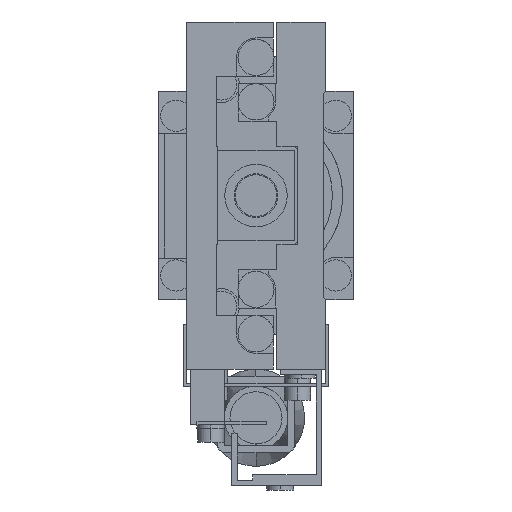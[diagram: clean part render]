
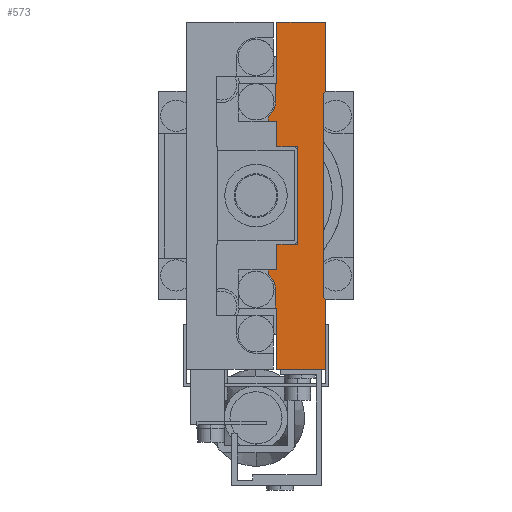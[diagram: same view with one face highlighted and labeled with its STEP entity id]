
A CAD part, left-side view. The second image highlights one B-rep face of the part: STEP entity #573.
In plain terms, the highlighted planar face has unit normal (-1, 0, 0).
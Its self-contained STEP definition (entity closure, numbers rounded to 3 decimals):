
#573=ADVANCED_FACE('',(#1634),#1635,.F.);
#1634=FACE_OUTER_BOUND('',#3292,.T.);
#1635=PLANE('',#3293);
#3292=EDGE_LOOP('',(#6457,#6458,#6459,#6460,#6461,#6462,#6463,#6464,#6465,#6466,#6467,#6468,#6469,#6470,#6471,#6472,#6473,#6474,#6475,#6476,#6477,#6478,#6479,#6480));
#3293=AXIS2_PLACEMENT_3D('',#6481,#6482,#6483);
#6457=ORIENTED_EDGE('',*,*,#11306,.T.);
#6458=ORIENTED_EDGE('',*,*,#11307,.T.);
#6459=ORIENTED_EDGE('',*,*,#11308,.T.);
#6460=ORIENTED_EDGE('',*,*,#11309,.F.);
#6461=ORIENTED_EDGE('',*,*,#11310,.F.);
#6462=ORIENTED_EDGE('',*,*,#11311,.F.);
#6463=ORIENTED_EDGE('',*,*,#11312,.F.);
#6464=ORIENTED_EDGE('',*,*,#11313,.F.);
#6465=ORIENTED_EDGE('',*,*,#11314,.F.);
#6466=ORIENTED_EDGE('',*,*,#11315,.F.);
#6467=ORIENTED_EDGE('',*,*,#11316,.F.);
#6468=ORIENTED_EDGE('',*,*,#11317,.F.);
#6469=ORIENTED_EDGE('',*,*,#11318,.F.);
#6470=ORIENTED_EDGE('',*,*,#11319,.F.);
#6471=ORIENTED_EDGE('',*,*,#11320,.T.);
#6472=ORIENTED_EDGE('',*,*,#11321,.T.);
#6473=ORIENTED_EDGE('',*,*,#11322,.T.);
#6474=ORIENTED_EDGE('',*,*,#11323,.F.);
#6475=ORIENTED_EDGE('',*,*,#11324,.F.);
#6476=ORIENTED_EDGE('',*,*,#11325,.F.);
#6477=ORIENTED_EDGE('',*,*,#11300,.F.);
#6478=ORIENTED_EDGE('',*,*,#11326,.F.);
#6479=ORIENTED_EDGE('',*,*,#11327,.F.);
#6480=ORIENTED_EDGE('',*,*,#11328,.F.);
#6481=CARTESIAN_POINT('',(-25.0,0.,0.0));
#6482=DIRECTION('',(1.0,0.0,0.0));
#6483=DIRECTION('',(0.0,1.0,0.0));
#11300=EDGE_CURVE('',#13697,#13698,#13699,.T.);
#11306=EDGE_CURVE('',#13708,#13709,#13710,.T.);
#11307=EDGE_CURVE('',#13709,#13711,#13712,.T.);
#11308=EDGE_CURVE('',#13711,#13713,#13714,.T.);
#11309=EDGE_CURVE('',#13715,#13713,#13716,.T.);
#11310=EDGE_CURVE('',#13717,#13715,#13718,.T.);
#11311=EDGE_CURVE('',#13719,#13717,#13720,.T.);
#11312=EDGE_CURVE('',#13721,#13719,#13722,.T.);
#11313=EDGE_CURVE('',#13723,#13721,#13724,.T.);
#11314=EDGE_CURVE('',#13725,#13723,#13726,.T.);
#11315=EDGE_CURVE('',#13727,#13725,#13728,.T.);
#11316=EDGE_CURVE('',#13729,#13727,#13730,.T.);
#11317=EDGE_CURVE('',#13731,#13729,#13732,.T.);
#11318=EDGE_CURVE('',#13733,#13731,#13734,.T.);
#11319=EDGE_CURVE('',#13735,#13733,#13736,.T.);
#11320=EDGE_CURVE('',#13735,#13737,#13738,.T.);
#11321=EDGE_CURVE('',#13737,#13739,#13740,.T.);
#11322=EDGE_CURVE('',#13739,#13741,#13742,.T.);
#11323=EDGE_CURVE('',#13743,#13741,#13744,.T.);
#11324=EDGE_CURVE('',#13745,#13743,#13746,.T.);
#11325=EDGE_CURVE('',#13698,#13745,#13747,.T.);
#11326=EDGE_CURVE('',#13748,#13697,#13749,.T.);
#11327=EDGE_CURVE('',#13750,#13748,#13751,.T.);
#11328=EDGE_CURVE('',#13708,#13750,#13752,.T.);
#13697=VERTEX_POINT('',#17353);
#13698=VERTEX_POINT('',#17354);
#13699=LINE('',#17355,#17356);
#13708=VERTEX_POINT('',#17368);
#13709=VERTEX_POINT('',#17369);
#13710=LINE('',#17370,#17371);
#13711=VERTEX_POINT('',#17372);
#13712=CIRCLE('',#17373,2.8);
#13713=VERTEX_POINT('',#17374);
#13714=LINE('',#17375,#17376);
#13715=VERTEX_POINT('',#17377);
#13716=LINE('',#17378,#17379);
#13717=VERTEX_POINT('',#17380);
#13718=LINE('',#17381,#17382);
#13719=VERTEX_POINT('',#17383);
#13720=LINE('',#17384,#17385);
#13721=VERTEX_POINT('',#17386);
#13722=LINE('',#17387,#17388);
#13723=VERTEX_POINT('',#17389);
#13724=LINE('',#17390,#17391);
#13725=VERTEX_POINT('',#17392);
#13726=LINE('',#17393,#17394);
#13727=VERTEX_POINT('',#17395);
#13728=LINE('',#17396,#17397);
#13729=VERTEX_POINT('',#17398);
#13730=LINE('',#17399,#17400);
#13731=VERTEX_POINT('',#17401);
#13732=LINE('',#17402,#17403);
#13733=VERTEX_POINT('',#17404);
#13734=LINE('',#17405,#17406);
#13735=VERTEX_POINT('',#17407);
#13736=LINE('',#17408,#17409);
#13737=VERTEX_POINT('',#17410);
#13738=LINE('',#17411,#17412);
#13739=VERTEX_POINT('',#17413);
#13740=CIRCLE('',#17414,2.8);
#13741=VERTEX_POINT('',#17415);
#13742=LINE('',#17416,#17417);
#13743=VERTEX_POINT('',#17418);
#13744=LINE('',#17419,#17420);
#13745=VERTEX_POINT('',#17421);
#13746=LINE('',#17422,#17423);
#13747=LINE('',#17424,#17425);
#13748=VERTEX_POINT('',#17426);
#13749=LINE('',#17427,#17428);
#13750=VERTEX_POINT('',#17429);
#13751=LINE('',#17430,#17431);
#13752=LINE('',#17432,#17433);
#17353=CARTESIAN_POINT('',(-25.0,4.0,-7.0));
#17354=CARTESIAN_POINT('',(-25.0,4.0,7.0));
#17355=CARTESIAN_POINT('',(-25.0,4.0,-7.0));
#17356=VECTOR('',#21486,1000.0);
#17368=CARTESIAN_POINT('',(-25.0,8.2,-10.7));
#17369=CARTESIAN_POINT('',(-25.0,8.2,-11.355));
#17370=CARTESIAN_POINT('',(-25.0,8.2,-10.7));
#17371=VECTOR('',#21496,1000.0);
#17372=CARTESIAN_POINT('',(-25.0,7.2,-13.5));
#17373=AXIS2_PLACEMENT_3D('',#21497,#21498,#21499);
#17374=CARTESIAN_POINT('',(-25.0,7.2,-16.2));
#17375=CARTESIAN_POINT('',(-25.0,7.2,-13.5));
#17376=VECTOR('',#21500,1000.0);
#17377=CARTESIAN_POINT('',(-25.0,7.0,-16.2));
#17378=CARTESIAN_POINT('',(-25.0,7.0,-16.2));
#17379=VECTOR('',#21501,1000.0);
#17380=CARTESIAN_POINT('',(-25.0,7.0,-25.0));
#17381=CARTESIAN_POINT('',(-25.0,7.0,-25.0));
#17382=VECTOR('',#21502,1000.0);
#17383=CARTESIAN_POINT('',(-25.0,0.,-25.0));
#17384=CARTESIAN_POINT('',(-25.0,0.,-25.0));
#17385=VECTOR('',#21503,1000.0);
#17386=CARTESIAN_POINT('',(-25.0,0.,-15.0));
#17387=CARTESIAN_POINT('',(-25.0,0.,-15.0));
#17388=VECTOR('',#21504,1000.0);
#17389=CARTESIAN_POINT('',(-25.0,0.35,-14.65));
#17390=CARTESIAN_POINT('',(-25.0,0.35,-14.65));
#17391=VECTOR('',#21505,1000.0);
#17392=CARTESIAN_POINT('',(-25.0,0.35,14.65));
#17393=CARTESIAN_POINT('',(-25.0,0.35,14.65));
#17394=VECTOR('',#21506,1000.0);
#17395=CARTESIAN_POINT('',(-25.0,0.,15.0));
#17396=CARTESIAN_POINT('',(-25.0,0.,15.0));
#17397=VECTOR('',#21507,1000.0);
#17398=CARTESIAN_POINT('',(-25.0,0.,25.0));
#17399=CARTESIAN_POINT('',(-25.0,0.,25.0));
#17400=VECTOR('',#21508,1000.0);
#17401=CARTESIAN_POINT('',(-25.0,7.0,25.0));
#17402=CARTESIAN_POINT('',(-25.0,7.0,25.0));
#17403=VECTOR('',#21509,1000.0);
#17404=CARTESIAN_POINT('',(-25.0,7.0,16.2));
#17405=CARTESIAN_POINT('',(-25.0,7.0,16.2));
#17406=VECTOR('',#21510,1000.0);
#17407=CARTESIAN_POINT('',(-25.0,7.2,16.2));
#17408=CARTESIAN_POINT('',(-25.0,12.5,16.2));
#17409=VECTOR('',#21511,1000.0);
#17410=CARTESIAN_POINT('',(-25.0,7.2,13.5));
#17411=CARTESIAN_POINT('',(-25.0,7.2,16.2));
#17412=VECTOR('',#21512,1000.0);
#17413=CARTESIAN_POINT('',(-25.0,8.2,11.355));
#17414=AXIS2_PLACEMENT_3D('',#21513,#21514,#21515);
#17415=CARTESIAN_POINT('',(-25.0,8.2,10.7));
#17416=CARTESIAN_POINT('',(-25.0,8.2,11.355));
#17417=VECTOR('',#21516,1000.0);
#17418=CARTESIAN_POINT('',(-25.0,7.0,10.7));
#17419=CARTESIAN_POINT('',(-25.0,7.0,10.7));
#17420=VECTOR('',#21517,1000.0);
#17421=CARTESIAN_POINT('',(-25.0,7.0,7.0));
#17422=CARTESIAN_POINT('',(-25.0,7.0,7.0));
#17423=VECTOR('',#21518,1000.0);
#17424=CARTESIAN_POINT('',(-25.0,4.0,7.0));
#17425=VECTOR('',#21519,1000.0);
#17426=CARTESIAN_POINT('',(-25.0,7.0,-7.0));
#17427=CARTESIAN_POINT('',(-25.0,7.0,-7.0));
#17428=VECTOR('',#21520,1000.0);
#17429=CARTESIAN_POINT('',(-25.0,7.0,-10.7));
#17430=CARTESIAN_POINT('',(-25.0,7.0,-10.7));
#17431=VECTOR('',#21521,1000.0);
#17432=CARTESIAN_POINT('',(-25.0,12.5,-10.7));
#17433=VECTOR('',#21522,1000.0);
#21486=DIRECTION('',(0.0,0.0,1.0));
#21496=DIRECTION('',(0.0,0.0,-1.0));
#21497=CARTESIAN_POINT('',(-25.0,10.0,-13.5));
#21498=DIRECTION('',(1.0,0.0,0.0));
#21499=DIRECTION('',(0.0,0.0,-1.0));
#21500=DIRECTION('',(0.0,0.0,-1.0));
#21501=DIRECTION('',(0.0,1.0,0.0));
#21502=DIRECTION('',(0.0,0.,1.0));
#21503=DIRECTION('',(0.0,1.0,0.0));
#21504=DIRECTION('',(0.0,0.0,-1.0));
#21505=DIRECTION('',(0.0,-0.707,-0.707));
#21506=DIRECTION('',(0.0,0.0,-1.0));
#21507=DIRECTION('',(0.0,0.707,-0.707));
#21508=DIRECTION('',(0.0,0.0,-1.0));
#21509=DIRECTION('',(0.0,-1.0,0.0));
#21510=DIRECTION('',(0.0,0.,1.0));
#21511=DIRECTION('',(0.0,-1.0,0.0));
#21512=DIRECTION('',(0.0,0.0,-1.0));
#21513=CARTESIAN_POINT('',(-25.0,10.0,13.5));
#21514=DIRECTION('',(1.0,0.0,0.0));
#21515=DIRECTION('',(0.0,0.0,-1.0));
#21516=DIRECTION('',(0.0,0.0,-1.0));
#21517=DIRECTION('',(0.0,1.0,0.0));
#21518=DIRECTION('',(0.0,0.0,1.0));
#21519=DIRECTION('',(0.0,1.0,0.));
#21520=DIRECTION('',(0.0,-1.0,0.));
#21521=DIRECTION('',(0.0,0.0,1.0));
#21522=DIRECTION('',(0.0,-1.0,0.0));
